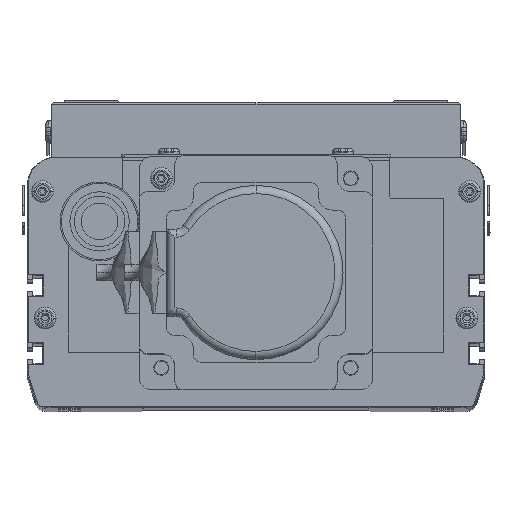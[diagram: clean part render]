
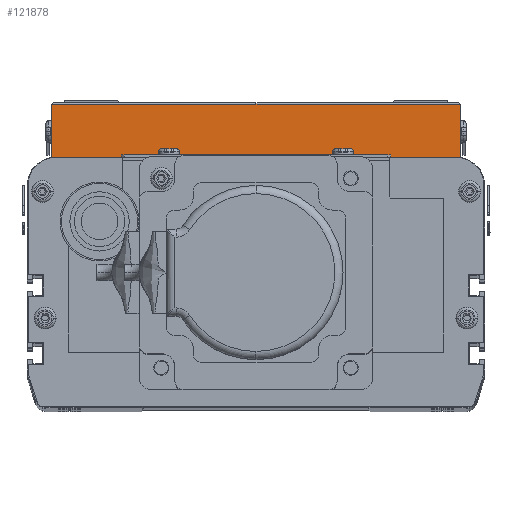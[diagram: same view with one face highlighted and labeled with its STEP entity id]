
A CAD part, top view. The second image highlights one B-rep face of the part: STEP entity #121878.
In plain terms, the highlighted planar face has unit normal (0, 0, 1) as drawn and (1, 0, 0) by its records, which use the part's own axes.
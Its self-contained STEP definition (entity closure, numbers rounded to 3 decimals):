
#77450 = DIRECTION ( 'NONE',  ( 0., 0., -1. ) ) ;
#77452 = VECTOR ( 'NONE', #77450, 1000. ) ;
#77454 = CARTESIAN_POINT ( 'NONE',  ( 220., 0., 0. ) ) ;
#77455 = LINE ( 'NONE', #77454, #77452 ) ;
#78188 = DIRECTION ( 'NONE',  ( 0., -1., 0. ) ) ;
#78198 = VECTOR ( 'NONE', #78188, 1000. ) ;
#78199 = CARTESIAN_POINT ( 'NONE',  ( 220., 20., -150. ) ) ;
#78200 = LINE ( 'NONE', #78199, #78198 ) ;
#78278 = CARTESIAN_POINT ( 'NONE',  ( 220., 0., 0. ) ) ;
#78312 = CARTESIAN_POINT ( 'NONE',  ( 220., 19.5, 0. ) ) ;
#78427 = CARTESIAN_POINT ( 'NONE',  ( 220., 19.5, -150. ) ) ;
#78448 = DIRECTION ( 'NONE',  ( 0., 0., 1. ) ) ;
#78449 = VECTOR ( 'NONE', #78448, 1000. ) ;
#78463 = LINE ( 'NONE', #78312, #78449 ) ;
#78548 = CARTESIAN_POINT ( 'NONE',  ( 220., 0., -150. ) ) ;
#78592 = FACE_OUTER_BOUND ( 'NONE', #122269, .T. ) ;
#78759 = DIRECTION ( 'NONE',  ( -1., 0., 0. ) ) ;
#78760 = CARTESIAN_POINT ( 'NONE',  ( 220., 20., 0. ) ) ;
#78843 = DIRECTION ( 'NONE',  ( 0., 0., 1. ) ) ;
#78847 = AXIS2_PLACEMENT_3D ( 'NONE', #78760, #78759, #78843 ) ;
#78919 = PLANE ( 'NONE',  #78847 ) ;
#79991 = LINE ( 'NONE', #80344, #80354 ) ;
#80307 = DIRECTION ( 'NONE',  ( 0., -1., 0. ) ) ;
#80344 = CARTESIAN_POINT ( 'NONE',  ( 220., 20., 0. ) ) ;
#80354 = VECTOR ( 'NONE', #80307, 1000. ) ;
#81465 = DIRECTION ( 'NONE',  ( 0., 0., 1. ) ) ;
#81466 = VECTOR ( 'NONE', #81465, 1000. ) ;
#81483 = CARTESIAN_POINT ( 'NONE',  ( 220., 19.5, 0. ) ) ;
#81484 = LINE ( 'NONE', #81483, #81466 ) ;
#81505 = CARTESIAN_POINT ( 'NONE',  ( 220., 19.5, -75. ) ) ;
#81898 = CARTESIAN_POINT ( 'NONE',  ( 220., 19.5, 0. ) ) ;
#121757 = EDGE_CURVE ( 'NONE', #121820, #121839, #77455, .T. ) ;
#121820 = VERTEX_POINT ( 'NONE', #78278 ) ;
#121833 = VERTEX_POINT ( 'NONE', #78427 ) ;
#121837 = EDGE_CURVE ( 'NONE', #121833, #121839, #78200, .T. ) ;
#121839 = VERTEX_POINT ( 'NONE', #78548 ) ;
#121864 = EDGE_CURVE ( 'NONE', #121833, #122193, #78463, .T. ) ;
#121877 = ORIENTED_EDGE ( 'NONE', *, *, #121864, .T. ) ;
#121878 = ADVANCED_FACE ( 'NONE', ( #78592 ), #78919, .F. ) ;
#121882 = ORIENTED_EDGE ( 'NONE', *, *, #121837, .F. ) ;
#121938 = ORIENTED_EDGE ( 'NONE', *, *, #122069, .T. ) ;
#122069 = EDGE_CURVE ( 'NONE', #122249, #121820, #79991, .T. ) ;
#122147 = ORIENTED_EDGE ( 'NONE', *, *, #122152, .T. ) ;
#122152 = EDGE_CURVE ( 'NONE', #122193, #122249, #81484, .T. ) ;
#122193 = VERTEX_POINT ( 'NONE', #81505 ) ;
#122194 = ORIENTED_EDGE ( 'NONE', *, *, #121757, .T. ) ;
#122249 = VERTEX_POINT ( 'NONE', #81898 ) ;
#122269 = EDGE_LOOP ( 'NONE', ( #121882, #121877, #122147, #121938, #122194 ) ) ;
